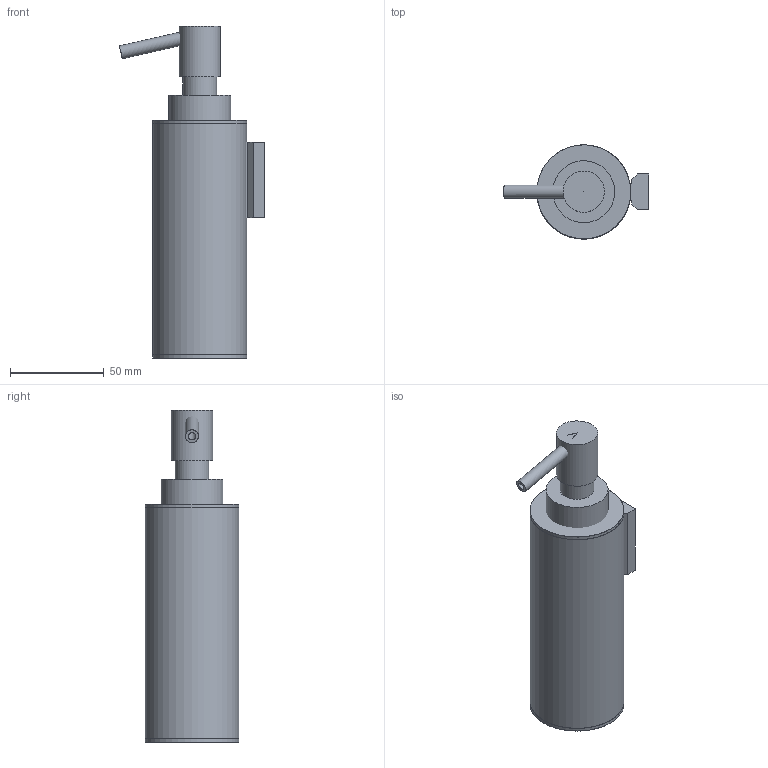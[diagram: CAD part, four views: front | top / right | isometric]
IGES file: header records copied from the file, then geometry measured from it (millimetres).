
Global section: file name: /Users/f/Desktop/II/AE127.igs; native system: Rhinoceros ( Sep  7 2010 ); preprocessor: Trout Lake IGES 012 Sep  7 2010; date: 100914.131828; units: millimetre
Bounding box: 77.27 x 50 x 176.75 mm (x, y, z)
Surface area: 44627.9 mm2 (no closed solid volume)
Topology: 0 solids, 0 shells, 41 faces, 181 edges, 164 vertices
Faces by surface type: bspline 41
